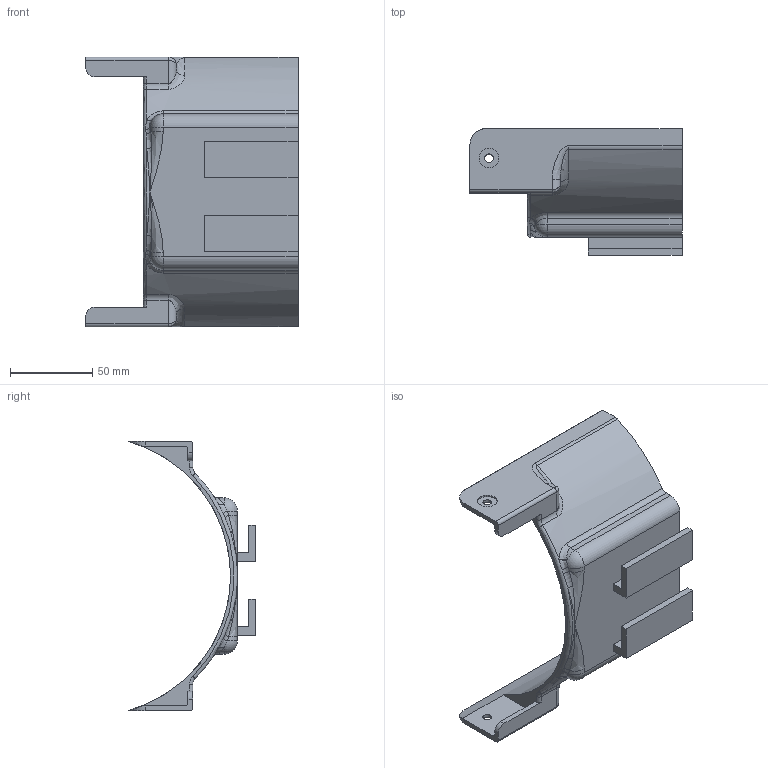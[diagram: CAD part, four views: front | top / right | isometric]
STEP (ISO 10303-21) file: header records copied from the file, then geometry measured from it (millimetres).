
FILE_DESCRIPTION (( 'STEP AP203' ), '1' );
FILE_NAME ('TTS160BPH Battery holder.STEP', '2026-09-25T08:03:48', ( '' ), ( '' ), 'SwSTEP 2.0', 'SolidWorks 2015', '' );
FILE_SCHEMA (( 'CONFIG_CONTROL_DESIGN' ));
Length unit declared in the file: millimetre
Products named in the file (1): TTS160BPH Battery holder
Bounding box: 129 x 77 x 164 mm (x, y, z)
Volume: 146585.8 mm3; surface area: 60681.6 mm2
Topology: 1 solids, 1 shells, 100 faces, 259 edges, 155 vertices
Faces by surface type: cylinder 38, plane 35, bspline 20, torus 5, sphere 2
Entity records: 4077 total; most frequent: CARTESIAN_POINT 1696, ORIENTED_EDGE 502, DIRECTION 461, EDGE_CURVE 251, AXIS2_PLACEMENT_3D 169, VERTEX_POINT 155, LINE 123, VECTOR 123
